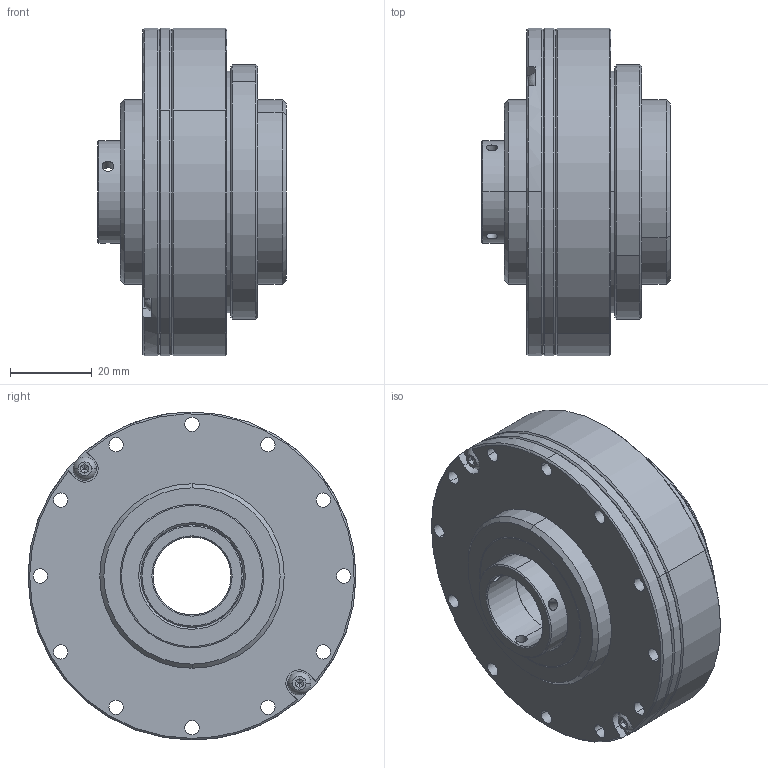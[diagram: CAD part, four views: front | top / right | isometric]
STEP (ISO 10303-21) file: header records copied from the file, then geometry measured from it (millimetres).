
FILE_DESCRIPTION (( 'STEP AP203' ), '1' );
FILE_NAME ('LHD-17-XXX-C-III.STEP', '2016-08-26T07:32:09', ( 'Windows 蚚誧' ), ( 'Users' ), 'SwSTEP 2.0', 'SolidWorks 2013', '' );
FILE_SCHEMA (( 'CONFIG_CONTROL_DESIGN' ));
Length unit declared in the file: millimetre
Products named in the file (17): 囀鞠褒攫芛蹟隊M3X8_GB_SOCKET_TYPE7 M3X6-N; 6805zz; 内六角圆柱头螺钉M2 x 10_内六角圆柱头螺钉M2 x 10; LHD-17-XXX-P08-III; 内六角圆柱头螺钉M2 x 6_内六角圆柱头螺钉 M2 x 6; LHD-17-XXX-P06-III; LHD-17-XXX-C-III; LHD-17-XXX-P01-III; LHD-17-XXX-P03-III; LHD-17-XXX-P04-III; RZC-17内外圈+钢球; LHD-17-XXX-P02-III; RZC-17悵厥殤; 15Z-10205; 柔性轴承RZC-17; 15Z-59685; DB-17-III-2
Assembly tree (29 placements, depth 3):
  LHD-17-XXX-C-III
    LHD-17-XXX-P03-III
    柔性轴承RZC-17
      RZC-17内外圈+钢球
      RZC-17悵厥殤
    DB-17-III-2
    6805zz  x2
    LHD-17-XXX-P08-III
    LHD-17-XXX-P06-III
    LHD-17-XXX-P01-III
    LHD-17-XXX-P04-III
    LHD-17-XXX-P02-III
    15Z-10205  x2
    15Z-59685
    囀鞠褒攫芛蹟隊M3X8_GB_SOCKET_TYPE7 M3X6-N  x2
    内六角圆柱头螺钉M2 x 10_内六角圆柱头螺钉M2 x 10  x6
    内六角圆柱头螺钉M2 x 6_内六角圆柱头螺钉 M2 x 6  x6
Bounding box: 46 x 80 x 80 mm (x, y, z)
Volume: 106241.6 mm3; surface area: 94190.4 mm2
Topology: 101 solids, 101 shells, 1324 faces, 3237 edges, 2006 vertices
Faces by surface type: cylinder 518, plane 351, cone 189, sphere 142, torus 124
Entity records: 29303 total; most frequent: DIRECTION 5313, CARTESIAN_POINT 4755, ORIENTED_EDGE 4140, AXIS2_PLACEMENT_3D 2291, EDGE_CURVE 2070, VERTEX_POINT 1342, CIRCLE 1321, EDGE_LOOP 1218
